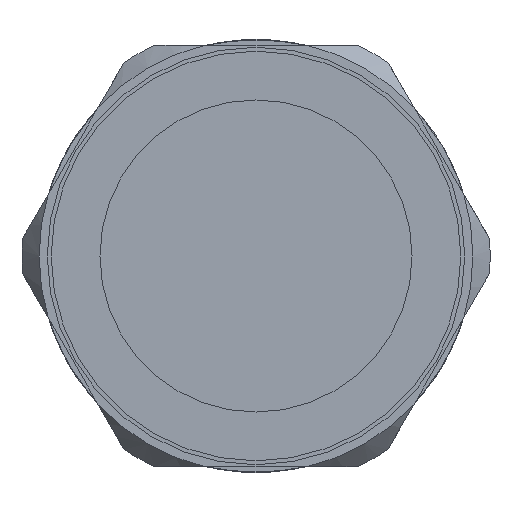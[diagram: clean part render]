
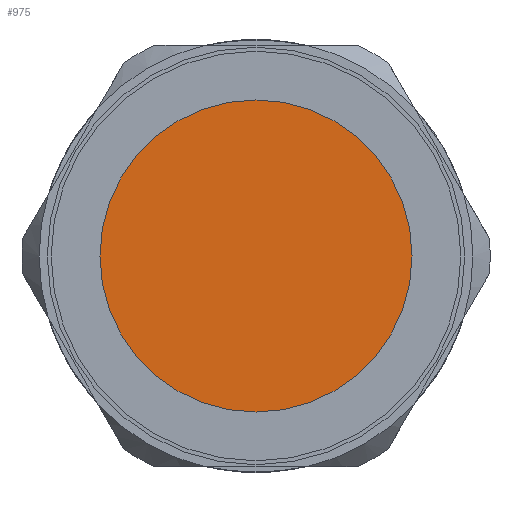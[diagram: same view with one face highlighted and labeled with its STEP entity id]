
A CAD part, left-side view. The second image highlights one B-rep face of the part: STEP entity #975.
In plain terms, the highlighted planar face has unit normal (-1, 0, 0).
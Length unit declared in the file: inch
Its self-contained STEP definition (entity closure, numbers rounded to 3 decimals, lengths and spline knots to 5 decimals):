
#58=PLANE('',#1084);
#109=FACE_OUTER_BOUND('',#168,.T.);
#168=EDGE_LOOP('',(#694,#695));
#320=CIRCLE('',#1082,0.31496);
#321=CIRCLE('',#1083,0.31496);
#398=VERTEX_POINT('',#1585);
#399=VERTEX_POINT('',#1587);
#510=EDGE_CURVE('',#398,#399,#320,.T.);
#511=EDGE_CURVE('',#399,#398,#321,.T.);
#694=ORIENTED_EDGE('',*,*,#511,.F.);
#695=ORIENTED_EDGE('',*,*,#510,.F.);
#975=ADVANCED_FACE('',(#109),#58,.T.);
#1082=AXIS2_PLACEMENT_3D('',#1588,#1273,#1274);
#1083=AXIS2_PLACEMENT_3D('',#1589,#1275,#1276);
#1084=AXIS2_PLACEMENT_3D('',#1590,#1277,#1278);
#1273=DIRECTION('center_axis',(1.,0.,0.));
#1274=DIRECTION('ref_axis',(0.,0.866,-0.5));
#1275=DIRECTION('center_axis',(1.,0.,0.));
#1276=DIRECTION('ref_axis',(0.,0.866,-0.5));
#1277=DIRECTION('center_axis',(-1.,0.,0.));
#1278=DIRECTION('ref_axis',(0.,0.866,-0.5));
#1585=CARTESIAN_POINT('',(-2.01786,-0.17146,-0.18686));
#1587=CARTESIAN_POINT('',(-2.01786,0.37407,-0.50182));
#1588=CARTESIAN_POINT('Origin',(-2.01786,0.1013,-0.34434));
#1589=CARTESIAN_POINT('Origin',(-2.01786,0.1013,-0.34434));
#1590=CARTESIAN_POINT('Origin',(-2.01786,0.1013,-0.34434));
